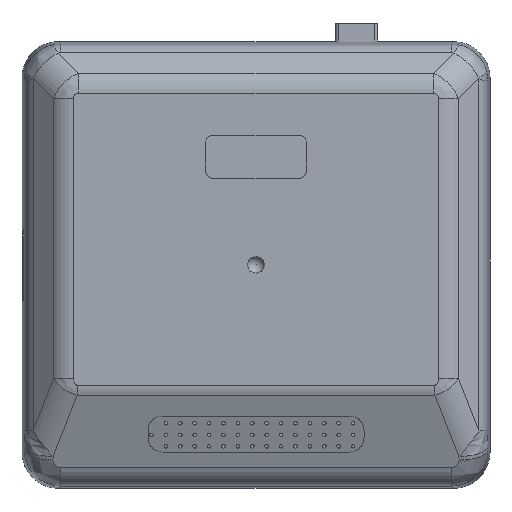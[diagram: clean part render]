
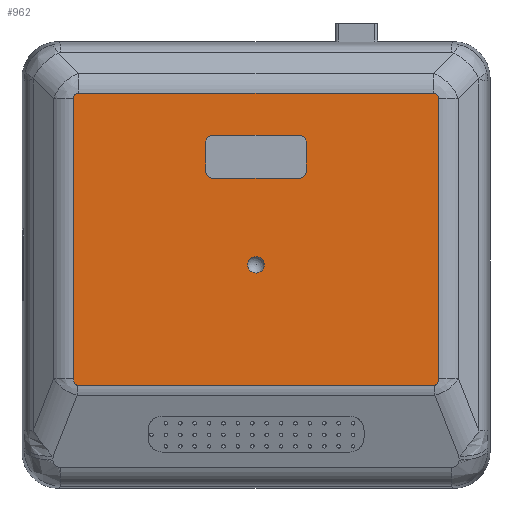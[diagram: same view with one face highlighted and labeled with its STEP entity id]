
A CAD part, top view. The second image highlights one B-rep face of the part: STEP entity #962.
In plain terms, the highlighted planar face has unit normal (0, 0, 1).
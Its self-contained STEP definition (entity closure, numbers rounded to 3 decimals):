
#273=CIRCLE('',#5334,1.146);
#274=CIRCLE('',#5335,1.);
#275=CIRCLE('',#5336,1.);
#276=CIRCLE('',#5337,1.);
#277=CIRCLE('',#5338,1.);
#411=PLANE('',#5343);
#683=FACE_BOUND('',#1704,.T.);
#684=FACE_BOUND('',#1705,.T.);
#685=FACE_BOUND('',#1706,.T.);
#962=ADVANCED_FACE('',(#683,#684,#685),#411,.F.);
#1704=EDGE_LOOP('',(#2491));
#1705=EDGE_LOOP('',(#2492,#2493,#2494,#2495,#2496,#2497,#2498,#2499));
#1706=EDGE_LOOP('',(#2500,#2501,#2502,#2503,#2504,#2505,#2506,#2507));
#1979=ELLIPSE('',#5339,1.773,1.);
#1980=ELLIPSE('',#5340,1.773,1.);
#1981=ELLIPSE('',#5341,3.004,1.);
#1982=ELLIPSE('',#5342,3.004,1.);
#2491=ORIENTED_EDGE('',*,*,#4141,.F.);
#2492=ORIENTED_EDGE('',*,*,#4142,.T.);
#2493=ORIENTED_EDGE('',*,*,#4143,.T.);
#2494=ORIENTED_EDGE('',*,*,#4144,.T.);
#2495=ORIENTED_EDGE('',*,*,#4145,.T.);
#2496=ORIENTED_EDGE('',*,*,#4146,.T.);
#2497=ORIENTED_EDGE('',*,*,#4147,.T.);
#2498=ORIENTED_EDGE('',*,*,#4148,.T.);
#2499=ORIENTED_EDGE('',*,*,#4149,.T.);
#2500=ORIENTED_EDGE('',*,*,#4150,.T.);
#2501=ORIENTED_EDGE('',*,*,#4151,.T.);
#2502=ORIENTED_EDGE('',*,*,#4152,.T.);
#2503=ORIENTED_EDGE('',*,*,#4153,.T.);
#2504=ORIENTED_EDGE('',*,*,#4154,.T.);
#2505=ORIENTED_EDGE('',*,*,#4155,.T.);
#2506=ORIENTED_EDGE('',*,*,#4156,.T.);
#2507=ORIENTED_EDGE('',*,*,#4157,.T.);
#3626=VERTEX_POINT('',#14492);
#3627=VERTEX_POINT('',#14494);
#3628=VERTEX_POINT('',#14495);
#3629=VERTEX_POINT('',#14497);
#3630=VERTEX_POINT('',#14499);
#3631=VERTEX_POINT('',#14501);
#3632=VERTEX_POINT('',#14503);
#3633=VERTEX_POINT('',#14505);
#3634=VERTEX_POINT('',#14507);
#3635=VERTEX_POINT('',#14510);
#3636=VERTEX_POINT('',#14511);
#3637=VERTEX_POINT('',#14513);
#3638=VERTEX_POINT('',#14515);
#3639=VERTEX_POINT('',#14517);
#3640=VERTEX_POINT('',#14519);
#3641=VERTEX_POINT('',#14521);
#3642=VERTEX_POINT('',#14523);
#4141=EDGE_CURVE('',#3626,#3626,#273,.T.);
#4142=EDGE_CURVE('',#3627,#3628,#4623,.T.);
#4143=EDGE_CURVE('',#3628,#3629,#274,.T.);
#4144=EDGE_CURVE('',#3629,#3630,#4624,.T.);
#4145=EDGE_CURVE('',#3630,#3631,#275,.T.);
#4146=EDGE_CURVE('',#3631,#3632,#4625,.T.);
#4147=EDGE_CURVE('',#3632,#3633,#276,.T.);
#4148=EDGE_CURVE('',#3633,#3634,#4626,.T.);
#4149=EDGE_CURVE('',#3634,#3627,#277,.T.);
#4150=EDGE_CURVE('',#3635,#3636,#4627,.T.);
#4151=EDGE_CURVE('',#3636,#3637,#1979,.T.);
#4152=EDGE_CURVE('',#3637,#3638,#4628,.T.);
#4153=EDGE_CURVE('',#3638,#3639,#1980,.T.);
#4154=EDGE_CURVE('',#3639,#3640,#4629,.T.);
#4155=EDGE_CURVE('',#3640,#3641,#1981,.T.);
#4156=EDGE_CURVE('',#3641,#3642,#4630,.T.);
#4157=EDGE_CURVE('',#3642,#3635,#1982,.T.);
#4623=LINE('',#14493,#4978);
#4624=LINE('',#14498,#4979);
#4625=LINE('',#14502,#4980);
#4626=LINE('',#14506,#4981);
#4627=LINE('',#14509,#4982);
#4628=LINE('',#14514,#4983);
#4629=LINE('',#14518,#4984);
#4630=LINE('',#14522,#4985);
#4978=VECTOR('',#6154,1.);
#4979=VECTOR('',#6157,1.);
#4980=VECTOR('',#6160,1.);
#4981=VECTOR('',#6163,1.);
#4982=VECTOR('',#6166,1.);
#4983=VECTOR('',#6169,1.);
#4984=VECTOR('',#6172,1.);
#4985=VECTOR('',#6175,1.);
#5334=AXIS2_PLACEMENT_3D('',#14491,#6152,#6153);
#5335=AXIS2_PLACEMENT_3D('',#14496,#6155,#6156);
#5336=AXIS2_PLACEMENT_3D('',#14500,#6158,#6159);
#5337=AXIS2_PLACEMENT_3D('',#14504,#6161,#6162);
#5338=AXIS2_PLACEMENT_3D('',#14508,#6164,#6165);
#5339=AXIS2_PLACEMENT_3D('',#14512,#6167,#6168);
#5340=AXIS2_PLACEMENT_3D('',#14516,#6170,#6171);
#5341=AXIS2_PLACEMENT_3D('',#14520,#6173,#6174);
#5342=AXIS2_PLACEMENT_3D('',#14524,#6176,#6177);
#5343=AXIS2_PLACEMENT_3D('',#14525,#6178,#6179);
#6152=DIRECTION('',(0.,0.,1.));
#6153=DIRECTION('',(-1.,0.,0.));
#6154=DIRECTION('',(-1.,0.,0.));
#6155=DIRECTION('',(0.,0.,-1.));
#6156=DIRECTION('',(-1.,0.,0.));
#6157=DIRECTION('',(0.,1.,0.));
#6158=DIRECTION('',(0.,0.,-1.));
#6159=DIRECTION('',(-1.,0.,0.));
#6160=DIRECTION('',(1.,0.,0.));
#6161=DIRECTION('',(0.,0.,-1.));
#6162=DIRECTION('',(-1.,0.,0.));
#6163=DIRECTION('',(0.,-1.,0.));
#6164=DIRECTION('',(0.,0.,-1.));
#6165=DIRECTION('',(-1.,0.,0.));
#6166=DIRECTION('',(0.,1.,0.));
#6167=DIRECTION('',(0.,0.,1.));
#6168=DIRECTION('',(0.707,0.707,0.));
#6169=DIRECTION('',(-1.,0.,0.));
#6170=DIRECTION('',(0.,0.,1.));
#6171=DIRECTION('',(-0.707,0.707,0.));
#6172=DIRECTION('',(0.,-1.,0.));
#6173=DIRECTION('',(0.,0.,1.));
#6174=DIRECTION('',(0.366,0.931,0.));
#6175=DIRECTION('',(1.,0.,0.));
#6176=DIRECTION('',(0.,0.,1.));
#6177=DIRECTION('',(0.366,-0.931,0.));
#6178=DIRECTION('',(0.,0.,-1.));
#6179=DIRECTION('',(-1.,0.,0.));
#14491=CARTESIAN_POINT('',(0.,0.,16.));
#14492=CARTESIAN_POINT('',(-1.146,0.,16.));
#14493=CARTESIAN_POINT('',(7.5,12.,16.));
#14494=CARTESIAN_POINT('',(6.,12.,16.));
#14495=CARTESIAN_POINT('',(-6.,12.,16.));
#14496=CARTESIAN_POINT('',(-6.,13.,16.));
#14497=CARTESIAN_POINT('',(-7.,13.,16.));
#14498=CARTESIAN_POINT('',(-7.,18.,16.));
#14499=CARTESIAN_POINT('',(-7.,17.,16.));
#14500=CARTESIAN_POINT('',(-6.,17.,16.));
#14501=CARTESIAN_POINT('',(-6.,18.,16.));
#14502=CARTESIAN_POINT('',(7.5,18.,16.));
#14503=CARTESIAN_POINT('',(6.,18.,16.));
#14504=CARTESIAN_POINT('',(6.,17.,16.));
#14505=CARTESIAN_POINT('',(7.,17.,16.));
#14506=CARTESIAN_POINT('',(7.,18.,16.));
#14507=CARTESIAN_POINT('',(7.,13.,16.));
#14508=CARTESIAN_POINT('',(6.,13.,16.));
#14509=CARTESIAN_POINT('',(25.325,21.968,16.));
#14510=CARTESIAN_POINT('',(25.325,-15.785,16.));
#14511=CARTESIAN_POINT('',(25.325,23.131,16.));
#14512=CARTESIAN_POINT('',(23.886,22.386,16.));
#14513=CARTESIAN_POINT('',(24.631,23.825,16.));
#14514=CARTESIAN_POINT('',(-23.468,23.825,16.));
#14515=CARTESIAN_POINT('',(-24.631,23.825,16.));
#14516=CARTESIAN_POINT('',(-23.886,22.386,16.));
#14517=CARTESIAN_POINT('',(-25.325,23.131,16.));
#14518=CARTESIAN_POINT('',(-25.325,-12.825,16.));
#14519=CARTESIAN_POINT('',(-25.325,-15.785,16.));
#14520=CARTESIAN_POINT('',(-23.886,-13.888,16.));
#14521=CARTESIAN_POINT('',(-24.854,-16.708,16.));
#14522=CARTESIAN_POINT('',(24.585,-16.708,16.));
#14523=CARTESIAN_POINT('',(24.854,-16.708,16.));
#14524=CARTESIAN_POINT('',(23.886,-13.888,16.));
#14525=CARTESIAN_POINT('',(0.,0.,16.));
